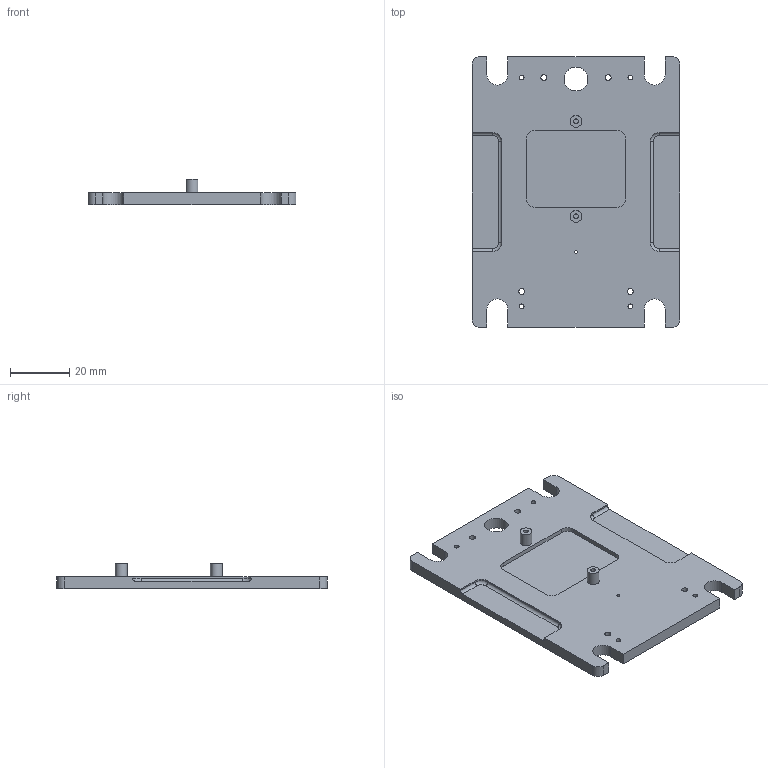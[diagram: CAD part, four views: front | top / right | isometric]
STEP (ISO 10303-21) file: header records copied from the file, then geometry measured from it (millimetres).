
FILE_DESCRIPTION(('FreeCAD Model'),'2;1');
FILE_NAME('Open CASCADE Shape Model','2025-06-05T08:20:39',(''),(''), 'Open CASCADE STEP processor 7.6','FreeCAD','Unknown');
FILE_SCHEMA(('CONFIG_CONTROL_DESIGN','SHAPE_APPEARANCE_LAYER_MIM'));
Length unit declared in the file: millimetre
Products named in the file (1): SmallCCDContainerBottom
Bounding box: 70 x 91 x 8.5 mm (x, y, z)
Volume: 21828 mm3; surface area: 14249.3 mm2
Topology: 1 solids, 1 shells, 75 faces, 196 edges, 128 vertices
Faces by surface type: cylinder 36, plane 35, torus 4
Full cylindrical faces by diameter (mm): 1 x1, 1.6 x6, 2 x4, 4 x2, 8 x1
Entity records: 2414 total; most frequent: DIRECTION 424, CARTESIAN_POINT 400, ORIENTED_EDGE 392, EDGE_CURVE 196, AXIS2_PLACEMENT_3D 152, VERTEX_POINT 128, LINE 120, VECTOR 120
